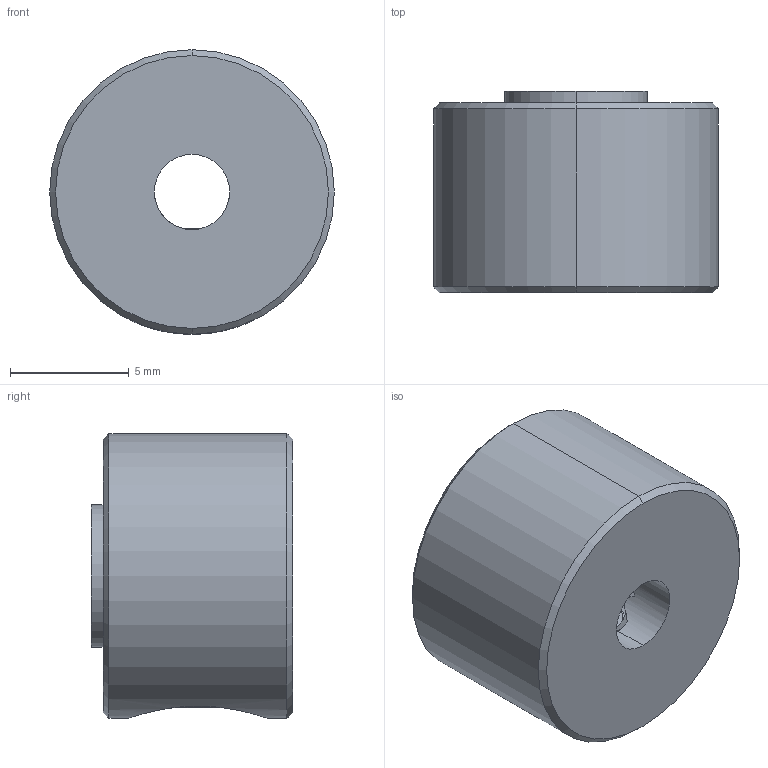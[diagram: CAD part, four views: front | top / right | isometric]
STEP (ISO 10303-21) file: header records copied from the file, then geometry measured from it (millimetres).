
FILE_DESCRIPTION (( 'STEP AP203' ), '1' );
FILE_NAME ('2920-0001-0125 assembly.STEP', '2021-02-19T22:31:22', ( '' ), ( '' ), 'SwSTEP 2.0', 'SolidWorks 2016', '' );
FILE_SCHEMA (( 'CONFIG_CONTROL_DESIGN' ));
Length unit declared in the file: millimetre
Products named in the file (3): 2920-0001-0125; 2920-0001-0125 assembly; 2806-0005-0004_91390A117
Assembly tree (2 placements, depth 2):
  2920-0001-0125 assembly
    2920-0001-0125
    2806-0005-0004_91390A117
Bounding box: 12 x 8.5 x 12 mm (x, y, z)
Volume: 815.6 mm3; surface area: 795.3 mm2
Topology: 2 solids, 2 shells, 100 faces, 267 edges, 167 vertices
Faces by surface type: cylinder 46, cone 23, plane 18, bspline 13
Entity records: 8282 total; most frequent: CARTESIAN_POINT 5902, ORIENTED_EDGE 526, DIRECTION 343, EDGE_CURVE 263, VERTEX_POINT 167, AXIS2_PLACEMENT_3D 134, EDGE_LOOP 104, FACE_OUTER_BOUND 100
